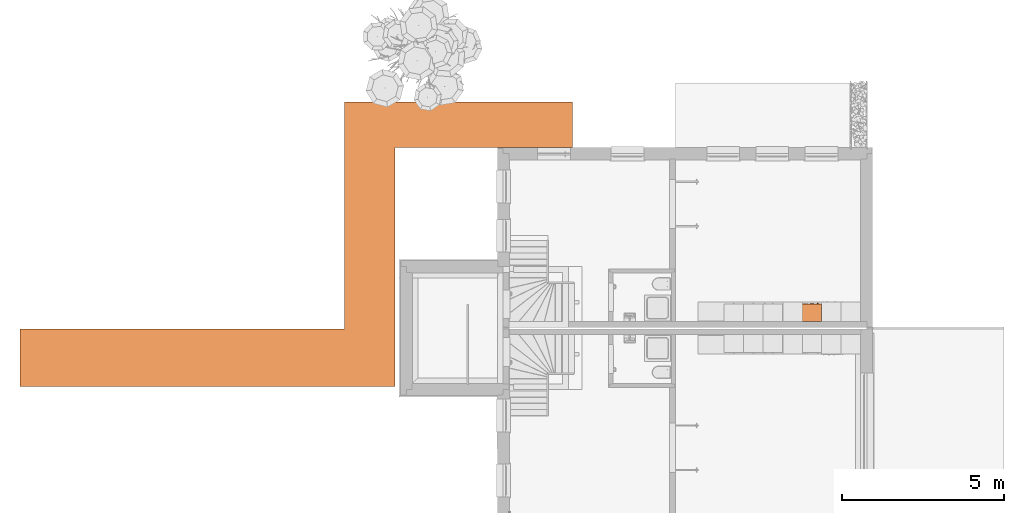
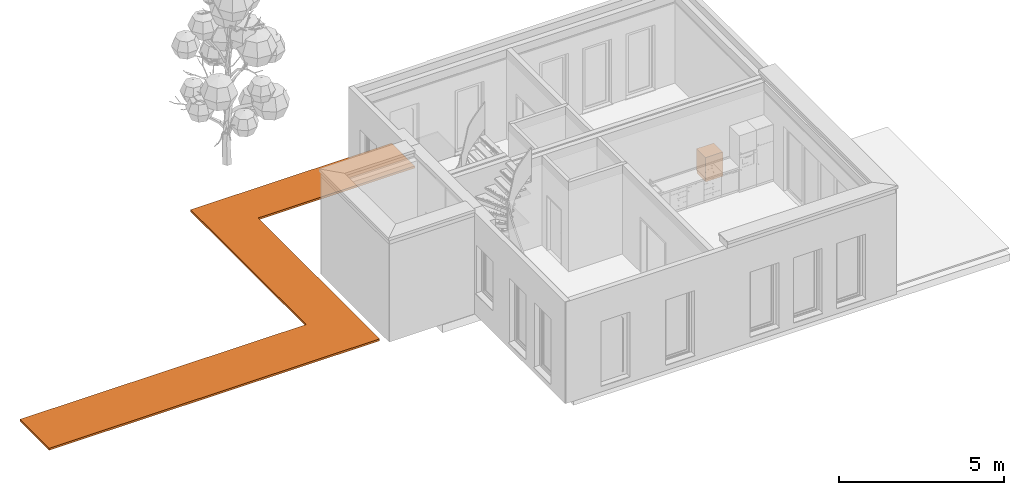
# One storey, part 21 of 28: 2 proxies.
"""IFC4 building model written with IfcOpenShell, lengths in metres."""

from ifc_helpers import new_model, entity, si_unit, converted_unit, derived_unit, direction, frame, origin_with_axes, place, context, subcontext, project, spatial, triangles, material, type_object, element, save


model = new_model("IFC4")

# Units and contexts
model_context = context("Model", 3, precision=1e-05, world=origin_with_axes(), true_north=direction((-0.526213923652, 0.850352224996)))
body_context = subcontext(model_context, "Body", "Model", "MODEL_VIEW")
ifc_project = project(units=[si_unit("LENGTHUNIT", "METRE"), si_unit("AREAUNIT", "SQUARE_METRE"), si_unit("VOLUMEUNIT", "CUBIC_METRE"), converted_unit("PLANEANGLEUNIT", "DEGREE", entity("IfcPlaneAngleMeasure", 0.0174532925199), si_unit("PLANEANGLEUNIT", "RADIAN"), dimensions=[0, 0, 0, 0, 0, 0, 0]), si_unit("SOLIDANGLEUNIT", "STERADIAN"), converted_unit("TIMEUNIT", "Year", entity("IfcTimeMeasure", 31556926.0), si_unit("TIMEUNIT", "SECOND"), dimensions=[0, 0, 1, 0, 0, 0, 0]), si_unit("MASSUNIT", "GRAM", prefix="KILO"), si_unit("THERMODYNAMICTEMPERATUREUNIT", "DEGREE_CELSIUS"), si_unit("LUMINOUSINTENSITYUNIT", "LUMEN"), si_unit("ENERGYUNIT", "JOULE", prefix="MEGA"), derived_unit("THERMALCONDUCTANCEUNIT", [(si_unit("POWERUNIT", "WATT"), 1), (si_unit("LENGTHUNIT", "METRE"), -1), (si_unit("THERMODYNAMICTEMPERATUREUNIT", "KELVIN"), -1)]), derived_unit("SPECIFICHEATCAPACITYUNIT", [(si_unit("ENERGYUNIT", "JOULE"), 1), (si_unit("MASSUNIT", "GRAM", prefix="KILO"), -1), (si_unit("THERMODYNAMICTEMPERATUREUNIT", "KELVIN"), -1)]), derived_unit("MASSDENSITYUNIT", [(si_unit("MASSUNIT", "GRAM", prefix="KILO"), 1), (si_unit("VOLUMEUNIT", "CUBIC_METRE"), -1)])], contexts=[model_context])

# Site, building, storey, space
site_placement = place(None, origin_with_axes())
site = spatial("IfcSite", under=ifc_project, at=site_placement, Name="Gelände", CompositionType="ELEMENT")
building_placement = place(site_placement, origin_with_axes())
building = spatial("IfcBuilding", under=site, at=building_placement, Name="Haus vom Nikolaus", CompositionType="ELEMENT")
storey_placement = place(building_placement, origin_with_axes())
storey = spatial("IfcBuildingStorey", under=building, at=storey_placement, Name="EG", CompositionType="ELEMENT", Elevation=0.0)
space_1_placement = place(storey_placement, frame((-3.09538684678, 5.36483190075, 0.0), z_axis=(0.0, 0.0, 1.0), x_axis=(1.0, 0.0, 0.0)))
space_1 = spatial("IfcSpace", under=storey, at=space_1_placement, Name="EG", CompositionType="ELEMENT")

# Proxy
building_element_proxy_type_1 = type_object("IfcBuildingElementProxyType", Name="Unterschrank Spülmaschine 22", PredefinedType="NOTDEFINED")
proxy_1_placement = place(space_1_placement, frame((12.9603844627, 2.87500017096, 0.2), z_axis=(0.0, 0.0, 1.0), x_axis=(-1.0, 0.0, 0.0)))
element("IfcBuildingElementProxy", 1, at=proxy_1_placement, inside=space_1, type_object=building_element_proxy_type_1, Name="Küche-007", PredefinedType="NOTDEFINED", context=body_context, shape_type="Tessellation", body=[
    triangles([(0.6, 0.07, 0.09), (0.0, 0.07, 0.0), (0.6, 0.07, 0.0), (0.0, 0.07, 0.09), (0.6, 0.6, 0.0), (0.0, 0.6, 0.0), (0.6, 0.6, 0.09), (0.0, 0.6, 0.09)], [[1, 2, 3], [1, 4, 2], [5, 2, 6], [5, 3, 2], [7, 3, 5], [7, 1, 3], [7, 4, 1], [7, 8, 4], [4, 6, 2], [4, 8, 6], [8, 5, 6], [8, 7, 5]], closed=True),
    triangles([(0.02, 0.07, 0.9), (0.0, 0.07, 0.88), (0.02, 0.07, 0.88), (0.0, 0.07, 0.9), (0.02, 0.6, 0.88), (0.58, 0.07, 0.88), (0.58, 0.6, 0.88), (0.0, 0.6, 0.88), (0.6, 0.07, 0.88), (0.6, 0.6, 0.88), (0.58, 0.07, 0.9), (0.0, 0.6, 0.9), (0.02, 0.6, 0.9), (0.58, 0.6, 0.9), (0.6, 0.6, 0.9), (0.6, 0.07, 0.9)], [[1, 2, 3], [1, 4, 2], [3, 2, 5], [6, 5, 7], [5, 2, 8], [9, 7, 10], [6, 7, 9], [3, 5, 6], [11, 3, 6], [11, 1, 3], [12, 4, 13], [14, 11, 15], [11, 14, 1], [15, 11, 16], [1, 13, 4], [13, 1, 14], [4, 8, 2], [4, 12, 8], [12, 5, 8], [12, 13, 5], [13, 7, 5], [13, 14, 7], [14, 10, 7], [14, 15, 10], [15, 9, 10], [15, 16, 9], [16, 6, 9], [16, 11, 6]], closed=True),
    triangles([(0.02, 0.07, 0.11), (0.0, 0.07, 0.09), (0.02, 0.07, 0.09), (0.0, 0.07, 0.11), (0.02, 0.6, 0.09), (0.58, 0.07, 0.09), (0.58, 0.6, 0.09), (0.0, 0.6, 0.09), (0.6, 0.07, 0.09), (0.6, 0.6, 0.09), (0.58, 0.07, 0.11), (0.0, 0.6, 0.11), (0.02, 0.6, 0.11), (0.58, 0.6, 0.11), (0.6, 0.6, 0.11), (0.6, 0.07, 0.11)], [[1, 2, 3], [1, 4, 2], [3, 2, 5], [6, 5, 7], [5, 2, 8], [9, 7, 10], [6, 7, 9], [3, 5, 6], [11, 3, 6], [11, 1, 3], [12, 4, 13], [14, 11, 15], [11, 14, 1], [15, 11, 16], [1, 13, 4], [13, 1, 14], [4, 8, 2], [4, 12, 8], [12, 5, 8], [12, 13, 5], [13, 7, 5], [13, 14, 7], [14, 10, 7], [14, 15, 10], [15, 9, 10], [15, 16, 9], [16, 6, 9], [16, 11, 6]], closed=True),
    triangles([(0.02, 0.07, 0.88), (0.0, 0.07, 0.11), (0.02, 0.07, 0.11), (0.0, 0.07, 0.88), (0.02, 0.58, 0.11), (0.58, 0.58, 0.11), (0.6, 0.07, 0.11), (0.58, 0.07, 0.11), (0.0, 0.6, 0.11), (0.6, 0.6, 0.11), (0.02, 0.58, 0.88), (0.0, 0.6, 0.88), (0.6, 0.6, 0.88), (0.58, 0.58, 0.88), (0.6, 0.07, 0.88), (0.58, 0.07, 0.88)], [[1, 2, 3], [1, 4, 2], [3, 2, 5], [6, 7, 8], [6, 9, 10], [7, 6, 10], [5, 2, 9], [6, 5, 9], [11, 3, 5], [11, 1, 3], [12, 4, 11], [13, 12, 11], [11, 4, 1], [13, 11, 14], [15, 13, 14], [15, 14, 16], [4, 9, 2], [4, 12, 9], [12, 10, 9], [12, 13, 10], [13, 7, 10], [13, 15, 7], [15, 8, 7], [15, 16, 8], [16, 6, 8], [16, 14, 6], [14, 5, 6], [14, 11, 5]], closed=True),
    triangles([(0.6, 0.05, 0.788571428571), (0.0, 0.07, 0.788571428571), (0.6, 0.07, 0.788571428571), (0.0, 0.05, 0.788571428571), (0.36, 0.07, 0.862857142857), (0.24, 0.07, 0.862857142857), (0.0, 0.07, 0.9), (0.6, 0.07, 0.9), (0.24, 0.07, 0.788571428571), (0.36, 0.07, 0.788571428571), (0.6, 0.05, 0.9), (0.24, 0.05, 0.862857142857), (0.36, 0.05, 0.862857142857), (0.0, 0.05, 0.9), (0.36, 0.05, 0.788571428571), (0.24, 0.05, 0.788571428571)], [[1, 2, 3], [1, 4, 2], [5, 6, 7], [5, 7, 8], [7, 6, 9], [10, 5, 8], [2, 7, 9], [2, 9, 3], [3, 9, 10], [3, 10, 8], [11, 3, 8], [11, 1, 3], [12, 13, 11], [12, 11, 14], [11, 13, 15], [16, 12, 14], [1, 11, 15], [1, 15, 4], [4, 15, 16], [4, 16, 14], [4, 7, 2], [4, 14, 7], [14, 8, 7], [14, 11, 8], [16, 10, 9], [16, 15, 10], [13, 10, 15], [10, 13, 5], [13, 6, 5], [13, 12, 6], [12, 9, 6], [12, 16, 9]], closed=True),
    triangles([(0.6, 0.055, 0.77), (0.0, 0.07, 0.77), (0.6, 0.07, 0.77), (0.0, 0.055, 0.77), (0.6, 0.07, 0.788571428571), (0.0, 0.07, 0.788571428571), (0.6, 0.055, 0.788571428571), (0.0, 0.055, 0.788571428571)], [[1, 2, 3], [1, 4, 2], [5, 2, 6], [5, 3, 2], [7, 3, 5], [7, 1, 3], [7, 4, 1], [7, 8, 4], [4, 6, 2], [4, 8, 6], [8, 5, 6], [8, 7, 5]], closed=True),
    triangles([(0.6, 0.05, 0.77), (0.0, 0.055, 0.77), (0.6, 0.055, 0.77), (0.0, 0.05, 0.77), (0.6, 0.055, 0.774642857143), (0.0, 0.055, 0.774642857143), (0.6, 0.05, 0.774642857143), (0.0, 0.05, 0.774642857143)], [[1, 2, 3], [1, 4, 2], [5, 2, 6], [5, 3, 2], [7, 3, 5], [7, 1, 3], [7, 4, 1], [7, 8, 4], [4, 6, 2], [4, 8, 6], [8, 5, 6], [8, 7, 5]], closed=True),
    triangles([(0.6, 0.05, 0.779285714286), (0.0, 0.055, 0.779285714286), (0.6, 0.055, 0.779285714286), (0.0, 0.05, 0.779285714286), (0.6, 0.055, 0.783928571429), (0.0, 0.055, 0.783928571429), (0.6, 0.05, 0.783928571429), (0.0, 0.05, 0.783928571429)], [[1, 2, 3], [1, 4, 2], [5, 2, 6], [5, 3, 2], [7, 3, 5], [7, 1, 3], [7, 4, 1], [7, 8, 4], [4, 6, 2], [4, 8, 6], [8, 5, 6], [8, 7, 5]], closed=True),
    triangles([(0.36, 0.06, 0.788571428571), (0.24, 0.07, 0.788571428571), (0.36, 0.07, 0.788571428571), (0.24, 0.06, 0.788571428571), (0.36, 0.07, 0.862857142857), (0.24, 0.07, 0.862857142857), (0.36, 0.06, 0.862857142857), (0.24, 0.06, 0.862857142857)], [[1, 2, 3], [1, 4, 2], [5, 2, 6], [5, 3, 2], [7, 3, 5], [7, 1, 3], [7, 4, 1], [7, 8, 4], [4, 6, 2], [4, 8, 6], [8, 5, 6], [8, 7, 5]], closed=True),
    triangles([(0.36, 0.05, 0.788571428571), (0.24, 0.06, 0.788571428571), (0.36, 0.06, 0.788571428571), (0.24, 0.05, 0.788571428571), (0.245, 0.06, 0.793571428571), (0.24, 0.06, 0.862857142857), (0.355, 0.06, 0.857857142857), (0.36, 0.06, 0.862857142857), (0.355, 0.06, 0.793571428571), (0.245, 0.06, 0.857857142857), (0.36, 0.05, 0.862857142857), (0.245, 0.05, 0.857857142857), (0.355, 0.05, 0.857857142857), (0.245, 0.05, 0.793571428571), (0.24, 0.05, 0.862857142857), (0.355, 0.05, 0.793571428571)], [[1, 2, 3], [1, 4, 2], [5, 3, 2], [5, 2, 6], [7, 6, 8], [9, 8, 3], [5, 9, 3], [9, 7, 8], [10, 5, 6], [7, 10, 6], [11, 3, 8], [11, 1, 3], [12, 13, 11], [14, 15, 4], [1, 14, 4], [12, 11, 15], [14, 12, 15], [16, 1, 13], [11, 13, 1], [1, 16, 14], [4, 6, 2], [4, 15, 6], [15, 8, 6], [15, 11, 8], [14, 9, 5], [14, 16, 9], [16, 7, 9], [16, 13, 7], [13, 10, 7], [13, 12, 10], [12, 5, 10], [12, 14, 5]], closed=True),
    triangles([(0.36, 0.045, 0.825714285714), (0.24, 0.05, 0.825714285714), (0.36, 0.05, 0.825714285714), (0.24, 0.045, 0.825714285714), (0.36, 0.05, 0.862857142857), (0.24, 0.05, 0.862857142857), (0.36, 0.045, 0.862857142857), (0.24, 0.045, 0.862857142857)], [[1, 2, 3], [1, 4, 2], [5, 2, 6], [5, 3, 2], [7, 3, 5], [7, 1, 3], [7, 4, 1], [7, 8, 4], [4, 6, 2], [4, 8, 6], [8, 5, 6], [8, 7, 5]], closed=True),
    triangles([(0.101428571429, 0.05, 0.825714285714), (0.125738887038, 0.05, 0.843376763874), (0.125738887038, 0.05, 0.808051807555), (0.104975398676, 0.05, 0.814798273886), (0.114261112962, 0.05, 0.808051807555), (0.104975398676, 0.05, 0.836630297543), (0.138571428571, 0.05, 0.825714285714), (0.135024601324, 0.05, 0.836630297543), (0.114261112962, 0.05, 0.843376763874), (0.135024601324, 0.05, 0.814798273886), (0.135024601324, 0.03, 0.814798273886), (0.125738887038, 0.03, 0.808051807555), (0.114261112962, 0.03, 0.808051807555), (0.104975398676, 0.03, 0.814798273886), (0.101428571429, 0.03, 0.825714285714), (0.104975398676, 0.03, 0.836630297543), (0.114261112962, 0.03, 0.843376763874), (0.125738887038, 0.03, 0.843376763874), (0.135024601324, 0.03, 0.836630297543), (0.138571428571, 0.03, 0.825714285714)], [[1, 2, 3], [1, 3, 4], [4, 3, 5], [2, 1, 6], [7, 2, 8], [2, 6, 9], [3, 7, 10], [2, 7, 3], [11, 3, 10], [11, 12, 3], [12, 5, 3], [12, 13, 5], [13, 4, 5], [13, 14, 4], [14, 1, 4], [14, 15, 1], [15, 6, 1], [15, 16, 6], [16, 9, 6], [16, 17, 9], [17, 2, 9], [17, 18, 2], [18, 8, 2], [18, 19, 8], [19, 7, 8], [19, 20, 7], [20, 10, 7], [20, 11, 10], [12, 20, 15], [17, 20, 18], [18, 20, 19], [16, 20, 17], [13, 15, 14], [15, 20, 16], [20, 12, 11], [12, 15, 13]], closed=True),
    triangles([(0.422869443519, 0.05, 0.834545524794), (0.410714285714, 0.05, 0.825714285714), (0.417130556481, 0.05, 0.834545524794), (0.422869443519, 0.05, 0.816883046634), (0.412487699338, 0.05, 0.8202562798), (0.417130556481, 0.05, 0.816883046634), (0.429285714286, 0.05, 0.825714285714), (0.427512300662, 0.05, 0.831172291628), (0.412487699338, 0.05, 0.831172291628), (0.427512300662, 0.05, 0.8202562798), (0.427512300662, 0.035, 0.8202562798), (0.422869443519, 0.035, 0.816883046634), (0.417130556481, 0.035, 0.816883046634), (0.412487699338, 0.035, 0.8202562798), (0.410714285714, 0.035, 0.825714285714), (0.412487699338, 0.035, 0.831172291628), (0.417130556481, 0.035, 0.834545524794), (0.422869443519, 0.035, 0.834545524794), (0.427512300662, 0.035, 0.831172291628), (0.429285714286, 0.035, 0.825714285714)], [[1, 2, 3], [2, 4, 5], [5, 4, 6], [7, 4, 2], [7, 1, 8], [3, 2, 9], [4, 7, 10], [1, 7, 2], [11, 4, 10], [11, 12, 4], [12, 6, 4], [12, 13, 6], [13, 5, 6], [13, 14, 5], [14, 2, 5], [14, 15, 2], [15, 9, 2], [15, 16, 9], [16, 3, 9], [16, 17, 3], [17, 1, 3], [17, 18, 1], [18, 8, 1], [18, 19, 8], [19, 7, 8], [19, 20, 7], [20, 10, 7], [20, 11, 10], [13, 18, 15], [20, 18, 11], [18, 20, 19], [16, 18, 17], [13, 15, 14], [15, 18, 16], [12, 11, 13], [18, 13, 11]], closed=True),
    triangles([(0.482869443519, 0.05, 0.834545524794), (0.470714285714, 0.05, 0.825714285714), (0.477130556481, 0.05, 0.834545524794), (0.482869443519, 0.05, 0.816883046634), (0.472487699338, 0.05, 0.8202562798), (0.477130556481, 0.05, 0.816883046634), (0.487512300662, 0.05, 0.8202562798), (0.472487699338, 0.05, 0.831172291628), (0.489285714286, 0.05, 0.825714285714), (0.487512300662, 0.05, 0.831172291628), (0.487512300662, 0.035, 0.8202562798), (0.482869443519, 0.035, 0.816883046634), (0.477130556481, 0.035, 0.816883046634), (0.472487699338, 0.035, 0.8202562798), (0.470714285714, 0.035, 0.825714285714), (0.472487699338, 0.035, 0.831172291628), (0.477130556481, 0.035, 0.834545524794), (0.482869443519, 0.035, 0.834545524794), (0.487512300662, 0.035, 0.831172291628), (0.489285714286, 0.035, 0.825714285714)], [[1, 2, 3], [2, 4, 5], [5, 4, 6], [4, 2, 7], [2, 1, 7], [3, 2, 8], [1, 9, 7], [9, 1, 10], [11, 4, 7], [11, 12, 4], [12, 6, 4], [12, 13, 6], [13, 5, 6], [13, 14, 5], [14, 2, 5], [14, 15, 2], [15, 8, 2], [15, 16, 8], [16, 3, 8], [16, 17, 3], [17, 1, 3], [17, 18, 1], [18, 10, 1], [18, 19, 10], [19, 9, 10], [19, 20, 9], [20, 7, 9], [20, 11, 7], [12, 17, 15], [20, 18, 11], [18, 20, 19], [17, 11, 18], [12, 14, 13], [15, 17, 16], [17, 12, 11], [14, 12, 15]], closed=True),
    triangles([(0.532487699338, 0.05, 0.831172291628), (0.542869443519, 0.05, 0.834545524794), (0.532487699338, 0.05, 0.8202562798), (0.542869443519, 0.05, 0.816883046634), (0.547512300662, 0.05, 0.8202562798), (0.537130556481, 0.05, 0.816883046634), (0.530714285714, 0.05, 0.825714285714), (0.537130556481, 0.05, 0.834545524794), (0.549285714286, 0.05, 0.825714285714), (0.547512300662, 0.05, 0.831172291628), (0.547512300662, 0.035, 0.8202562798), (0.542869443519, 0.035, 0.816883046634), (0.537130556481, 0.035, 0.816883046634), (0.532487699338, 0.035, 0.8202562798), (0.530714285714, 0.035, 0.825714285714), (0.532487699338, 0.035, 0.831172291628), (0.537130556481, 0.035, 0.834545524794), (0.542869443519, 0.035, 0.834545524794), (0.547512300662, 0.035, 0.831172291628), (0.549285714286, 0.035, 0.825714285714)], [[1, 2, 3], [4, 3, 5], [3, 4, 6], [1, 3, 7], [3, 2, 5], [2, 1, 8], [2, 9, 5], [9, 2, 10], [11, 4, 5], [11, 12, 4], [12, 6, 4], [12, 13, 6], [13, 3, 6], [13, 14, 3], [14, 7, 3], [14, 15, 7], [15, 1, 7], [15, 16, 1], [16, 8, 1], [16, 17, 8], [17, 2, 8], [17, 18, 2], [18, 10, 2], [18, 19, 10], [19, 9, 10], [19, 20, 9], [20, 5, 9], [20, 11, 5], [14, 16, 15], [18, 11, 19], [19, 11, 20], [16, 18, 17], [12, 18, 14], [14, 18, 16], [18, 12, 11], [12, 14, 13]], closed=True),
    triangles([(0.5985, 0.05, 0.0915), (0.0015, 0.07, 0.0915), (0.5985, 0.07, 0.0915), (0.0015, 0.05, 0.0915), (0.5985, 0.07, 0.7685), (0.0015, 0.07, 0.7685), (0.5985, 0.05, 0.7685), (0.0015, 0.05, 0.7685)], [[1, 2, 3], [1, 4, 2], [5, 2, 6], [5, 3, 2], [7, 3, 5], [7, 1, 3], [7, 4, 1], [7, 8, 4], [4, 6, 2], [4, 8, 6], [8, 5, 6], [8, 7, 5]], closed=True),
])

# Space
space_2_placement = place(storey_placement, frame((-4.81378690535, 7.40625818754, 0.0), z_axis=(0.0, 0.0, 1.0), x_axis=(-1.0, 0.0, 0.0)))
space_2 = spatial("IfcSpace", under=storey, at=space_2_placement, Name="R-000", CompositionType="ELEMENT")

# Proxy
ifc_material = material(Name="Boden, Pflaster")
building_element_proxy_type_2 = type_object("IfcBuildingElementProxyType", Name="Boden, Pflaster", PredefinedType="NOTDEFINED")
proxy_2_placement = place(space_2_placement, frame((9.98835177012, 2.52321594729e-08, -0.06), z_axis=(0.0, 0.0, 1.0), x_axis=(-1.0, 0.0, 0.0)))
element("IfcBuildingElementProxy", 2, at=proxy_2_placement, inside=space_2, type_object=building_element_proxy_type_2, material=ifc_material, Name="Morph-023", PredefinedType="NOTDEFINED", context=body_context, shape_type="Tessellation", body=[
    triangles([(0.0, -1.76561929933, 0.075), (0.0, 0.0, 0.0), (0.0, -1.76561929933, 0.0), (0.0, 0.0, 0.075), (11.5363284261, -1.76561929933, 0.0), (9.98835166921, 0.0, 0.0), (11.5363284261, 0.0, 0.0), (11.5363284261, -1.76561929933, 0.075), (9.98835166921, 0.0, 0.075), (11.5363284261, 0.0, 0.075), (11.5363283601, 5.58857389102, -4.49015026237e-06), (9.98835166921, 6.98579885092, 0.0), (11.5363283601, 6.98579910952, 5.14552398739e-06), (11.5363284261, 5.58857363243, 0.0749903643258), (11.5363284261, 6.98579885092, 0.075), (9.98835166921, 6.98579885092, 0.075), (17.0104023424, 6.98579910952, -4.49015026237e-06), (17.0104023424, 5.58857389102, -4.49015026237e-06), (17.0104024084, 5.58857363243, 0.075), (17.0104024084, 6.98579885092, 0.075)], [[1, 2, 3], [1, 4, 2], [5, 6, 7], [6, 3, 2], [6, 5, 3], [5, 1, 3], [5, 8, 1], [1, 9, 4], [9, 1, 8], [9, 8, 10], [4, 6, 2], [4, 9, 6], [11, 12, 13], [12, 11, 6], [11, 7, 6], [10, 5, 7], [10, 8, 5], [14, 9, 10], [15, 16, 14], [9, 14, 16], [16, 6, 9], [16, 12, 6], [13, 16, 15], [16, 13, 12], [17, 11, 13], [17, 18, 11], [14, 7, 11], [14, 10, 7], [19, 15, 14], [19, 20, 15], [20, 13, 15], [20, 17, 13], [20, 18, 17], [18, 20, 19], [18, 14, 11], [18, 19, 14]], closed=True),
])

save(model, "model.ifc")
